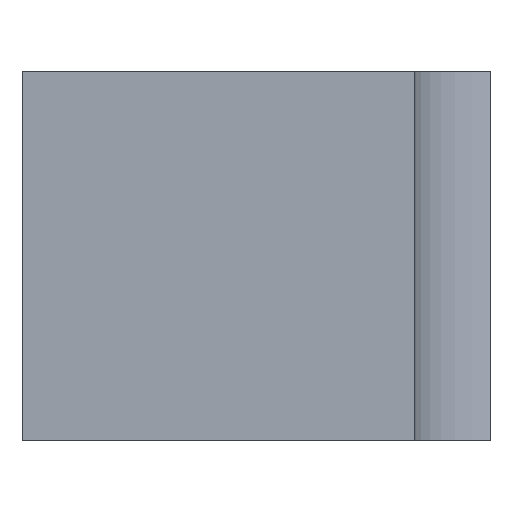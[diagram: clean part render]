
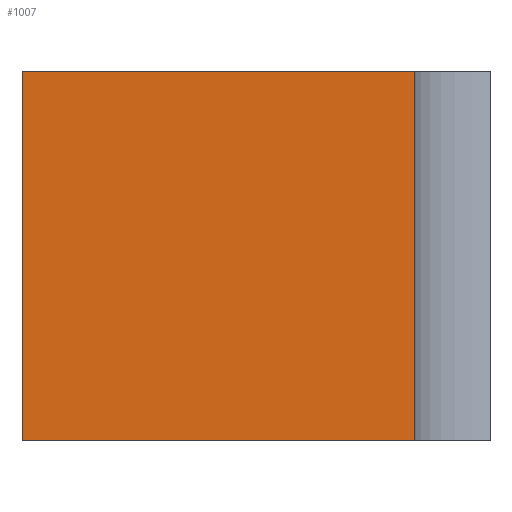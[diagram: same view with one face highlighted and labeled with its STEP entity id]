
A CAD part, left-side view. The second image highlights one B-rep face of the part: STEP entity #1007.
In plain terms, the highlighted planar face has unit normal (-1, 0, 0).
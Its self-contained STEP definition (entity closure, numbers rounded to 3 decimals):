
#5 = CARTESIAN_POINT ( 'NONE',  ( -235., 69.9, 55. ) ) ;
#15 = VECTOR ( 'NONE', #106, 1000. ) ;
#24 = EDGE_CURVE ( 'NONE', #1840, #2920, #605, .T. ) ;
#40 = EDGE_LOOP ( 'NONE', ( #1795, #2288, #759, #1038 ) ) ;
#44 = CARTESIAN_POINT ( 'NONE',  ( -235., 69.9, 0. ) ) ;
#106 = DIRECTION ( 'NONE',  ( 0., -1., 0. ) ) ;
#121 = DIRECTION ( 'NONE',  ( 0., 0., -1. ) ) ;
#331 = LINE ( 'NONE', #2414, #1206 ) ;
#335 = FACE_OUTER_BOUND ( 'NONE', #40, .T. ) ;
#605 = LINE ( 'NONE', #1074, #2237 ) ;
#638 = DIRECTION ( 'NONE',  ( 0., -1., 0. ) ) ;
#755 = VERTEX_POINT ( 'NONE', #5 ) ;
#759 = ORIENTED_EDGE ( 'NONE', *, *, #1406, .F. ) ;
#954 = PLANE ( 'NONE',  #2368 ) ;
#989 = LINE ( 'NONE', #2174, #1587 ) ;
#1007 = ADVANCED_FACE ( 'NONE', ( #335 ), #954, .F. ) ;
#1025 = CARTESIAN_POINT ( 'NONE',  ( -235., 11.3, 0. ) ) ;
#1038 = ORIENTED_EDGE ( 'NONE', *, *, #1353, .T. ) ;
#1074 = CARTESIAN_POINT ( 'NONE',  ( -235., 11.3, 0. ) ) ;
#1206 = VECTOR ( 'NONE', #121, 1000. ) ;
#1228 = VERTEX_POINT ( 'NONE', #2708 ) ;
#1239 = DIRECTION ( 'NONE',  ( 0., 0., -1. ) ) ;
#1353 = EDGE_CURVE ( 'NONE', #755, #1840, #331, .T. ) ;
#1406 = EDGE_CURVE ( 'NONE', #755, #1228, #2849, .T. ) ;
#1422 = DIRECTION ( 'NONE',  ( 0., 0., -1. ) ) ;
#1483 = CARTESIAN_POINT ( 'NONE',  ( -235., 11.3, 55. ) ) ;
#1587 = VECTOR ( 'NONE', #1422, 1000. ) ;
#1795 = ORIENTED_EDGE ( 'NONE', *, *, #24, .T. ) ;
#1840 = VERTEX_POINT ( 'NONE', #44 ) ;
#2174 = CARTESIAN_POINT ( 'NONE',  ( -235., 11.3, 55. ) ) ;
#2237 = VECTOR ( 'NONE', #638, 1000. ) ;
#2288 = ORIENTED_EDGE ( 'NONE', *, *, #2371, .F. ) ;
#2326 = CARTESIAN_POINT ( 'NONE',  ( -235., 11.3, 55. ) ) ;
#2368 = AXIS2_PLACEMENT_3D ( 'NONE', #2326, #2373, #1239 ) ;
#2371 = EDGE_CURVE ( 'NONE', #1228, #2920, #989, .T. ) ;
#2373 = DIRECTION ( 'NONE',  ( 1., 0., 0. ) ) ;
#2414 = CARTESIAN_POINT ( 'NONE',  ( -235., 69.9, 55. ) ) ;
#2708 = CARTESIAN_POINT ( 'NONE',  ( -235., 11.3, 55. ) ) ;
#2849 = LINE ( 'NONE', #1483, #15 ) ;
#2920 = VERTEX_POINT ( 'NONE', #1025 ) ;
